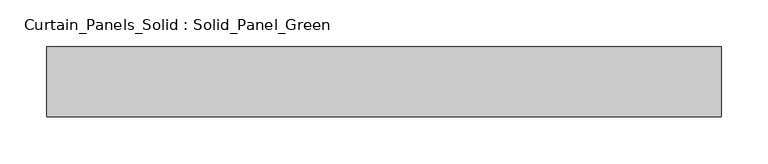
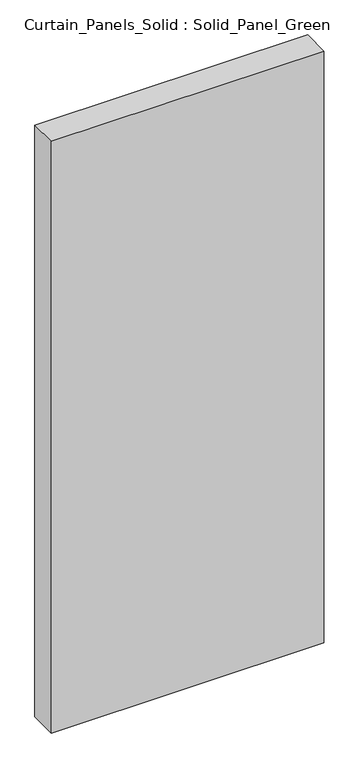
"""IFC4 building model written with IfcOpenShell, lengths in millimetres: plate geometry, Curtain_Panels_Solid : Solid_Panel_Green."""

from ifc_helpers import new_model, si_unit, origin, origin_with_axes, place, context, project, spatial, polyline, outline, extrude, source, transform, mapped, element, save


def curtain_panels_solid_solid_panel_green_875d4013(model_context):
    return source(origin(), model_context, "Body", "SweptSolid", [
        extrude(outline(polyline([(361.2499999, 25.0), (361.2499999, -50.0), (-361.2499999, -50.0), (-361.2499999, 25.0), (361.2499999, 25.0)])), origin_with_axes(), (0.0, 0.0, 1.0), 1657.5),
    ])


if __name__ == "__main__":
    model = new_model("IFC4")
    model_context = context("Model", 3, world=origin())
    ifc_project = project(units=[si_unit("LENGTHUNIT", "METRE", prefix="MILLI")], contexts=[model_context])
    site = spatial("IfcSite", under=ifc_project)
    building = spatial("IfcBuilding", under=site)
    placement = place(None, origin())
    curtain_panels_solid_solid_panel_green_shape = curtain_panels_solid_solid_panel_green_875d4013(model_context)
    element("IfcPlate", 1, ObjectType="Curtain_Panels_Solid : Solid_Panel_Green", at=placement, inside=building, context=model_context, shape_type="MappedRepresentation", body=[
        mapped(curtain_panels_solid_solid_panel_green_shape, transform((0.0, 0.0, 0.0), x_axis=(1.0, 0.0, 0.0), y_axis=(0.0, 1.0, 0.0), z_axis=(0.0, 0.0, 1.0))),
    ])
    save(model, "model.ifc")
